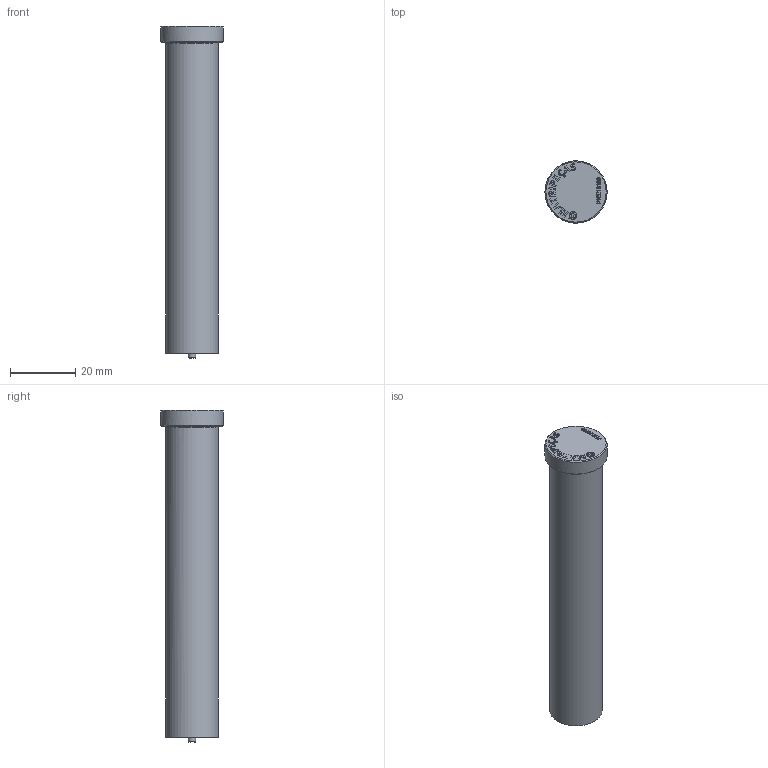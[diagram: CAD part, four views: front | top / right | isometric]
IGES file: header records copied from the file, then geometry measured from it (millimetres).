
Start section: C
Global section: file name: PNIE16100.igs; native system: By Siemens PLM Incorporated; preprocessor: XPlus GENERIC/IGES 18.0.17; author: Author; organization: Title; date: 20240726.170544; units: millimetre
Bounding box: 18.99 x 18.99 x 101.5 mm (x, y, z)
Volume: 20608.9 mm3; surface area: 5649.2 mm2
Topology: 1 solids, 1 shells, 261 faces, 683 edges, 455 vertices
Faces by surface type: bspline 261
